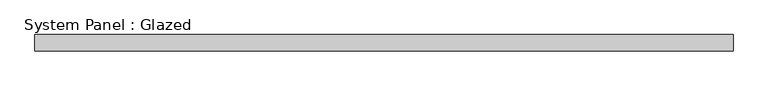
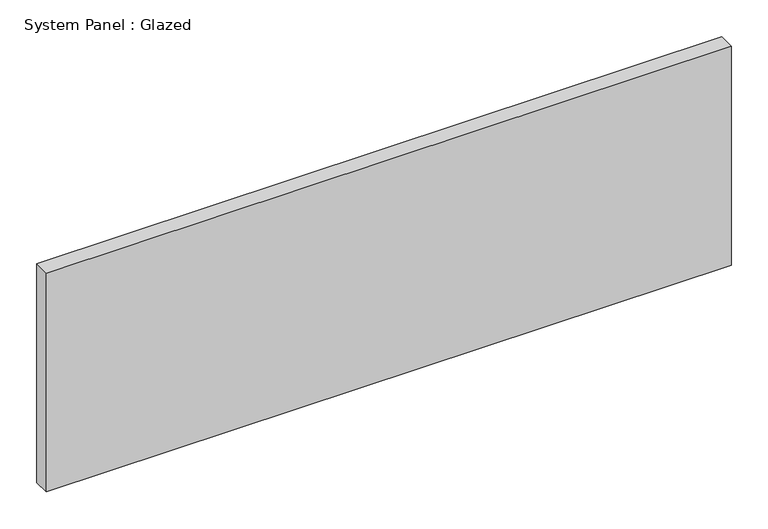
"""IFC4 building model written with IfcOpenShell, lengths in millimetres: plate geometry, System Panel : Glazed."""

import ifcopenshell
import ifcopenshell.guid

model = None  # the IFC model being written
_history = None  # IfcOwnerHistory: only IFC2X3 demands one
_inside = {}  # id of a spatial element -> (the spatial element, [elements in it])
_under = {}  # id of a project, library or spatial element -> (it, [spatial elements below it])
_declared = {}  # id of a project -> (the project, [libraries it declares])
_typed = {}  # id of a type object -> (the type object, [elements of that type])
_made_of = {}  # id of a material, layer set ... -> (it, [elements and type objects made of it])


def new_model(schema):
    """Start an empty IFC model of exactly this schema.

    Asked for "IFC4X3", IfcOpenShell would pick the latest addendum, in which some entities
    have other attributes; the version numbers below select the first issue.
    IFC2X3 requires an IfcOwnerHistory on every rooted entity: one is made here for all.
    """
    global model, _history
    if schema == "IFC4X3":
        model = ifcopenshell.file(schema_version=(4, 3, 0, 0))
    else:
        model = ifcopenshell.file(schema=schema)
    _inside.clear()
    _under.clear()
    _declared.clear()
    _typed.clear()
    _made_of.clear()
    _history = None
    if model.schema == "IFC2X3":
        org = make("IfcOrganization", Name="unknown")
        user = make(
            "IfcPersonAndOrganization",
            ThePerson=make("IfcPerson", FamilyName="unknown"),
            TheOrganization=org,
        )
        app = make(
            "IfcApplication",
            ApplicationDeveloper=org,
            Version="unknown",
            ApplicationFullName="unknown",
            ApplicationIdentifier="unknown",
        )
        _history = make(
            "IfcOwnerHistory",
            OwningUser=user,
            OwningApplication=app,
            ChangeAction="ADDED",
            CreationDate=0,
        )
    return model


def make(cls, **values):
    """One entity of the class cls with the attributes given. An attribute that is None is left unset."""
    return model.create_entity(
        cls, **{name: value for name, value in values.items() if value is not None}
    )


def rooted(cls, **values):
    """An entity with a GlobalId (a new one), such as an element, a storey or a relation."""
    return make(cls, GlobalId=ifcopenshell.guid.new(), OwnerHistory=_history, **values)


def si_unit(unit_type, name, prefix=None):
    """IfcSIUnit, for example si_unit("LENGTHUNIT", "METRE", prefix="MILLI")."""
    return make("IfcSIUnit", UnitType=unit_type, Prefix=prefix, Name=name)


def assignment(units):
    """IfcUnitAssignment: the units of a project."""
    return None if units is None else make("IfcUnitAssignment", Units=units)


def point(xyz):
    """IfcCartesianPoint."""
    return None if xyz is None else make("IfcCartesianPoint", Coordinates=xyz)


def direction(xyz):
    """IfcDirection."""
    return None if xyz is None else make("IfcDirection", DirectionRatios=xyz)


def frame(location, z_axis=None, x_axis=None):
    """IfcAxis2Placement3D, a coordinate frame: its origin and axes. An axis left out is left unset."""
    return make(
        "IfcAxis2Placement3D",
        Location=point(location),
        Axis=direction(z_axis),
        RefDirection=direction(x_axis),
    )


def origin():
    """The frame at (0, 0, 0) with its axes left unset."""
    return frame((0.0, 0.0, 0.0))


def origin_with_axes():
    """The frame at (0, 0, 0) with the z axis (0, 0, 1) and the x axis (1, 0, 0) written out."""
    return frame((0.0, 0.0, 0.0), z_axis=(0.0, 0.0, 1.0), x_axis=(1.0, 0.0, 0.0))


def place(relative_to, where):
    """IfcLocalPlacement: puts the frame where relative to a parent placement (None: the world)."""
    return make(
        "IfcLocalPlacement", PlacementRelTo=relative_to, RelativePlacement=where
    )


def context(
    kind, dimensions, precision=None, world=None, true_north=None, identifier=None
):
    """IfcGeometricRepresentationContext, for example the 3D "Model" context."""
    return make(
        "IfcGeometricRepresentationContext",
        ContextIdentifier=identifier,
        ContextType=kind,
        CoordinateSpaceDimension=dimensions,
        Precision=precision,
        WorldCoordinateSystem=world,
        TrueNorth=true_north,
    )


def project(units=None, contexts=None):
    """IfcProject with its units and contexts."""
    return rooted(
        "IfcProject",
        Name="project",
        RepresentationContexts=contexts,
        UnitsInContext=assignment(units),
    )


def spatial(cls, under=None, at=None, **own):
    """A site, building, storey or space (cls), placed at a placement, below another one or the project."""
    s = rooted(cls, ObjectPlacement=at, **own)
    if under is not None:
        _under.setdefault(under.id(), (under, []))[1].append(s)
    return s


def polyline(points):
    """IfcPolyline through the points."""
    return make("IfcPolyline", Points=[point(p) for p in points])


def outline(outer, holes=None, kind="AREA"):
    """IfcArbitraryClosedProfileDef: a profile drawn as a closed curve; with holes, ...WithVoids."""
    if holes is None:
        return make("IfcArbitraryClosedProfileDef", ProfileType=kind, OuterCurve=outer)
    return make(
        "IfcArbitraryProfileDefWithVoids",
        ProfileType=kind,
        OuterCurve=outer,
        InnerCurves=holes,
    )


def extrude(swept, where, along, depth):
    """IfcExtrudedAreaSolid: the profile swept, set in the frame where, extruded along a direction by depth."""
    return make(
        "IfcExtrudedAreaSolid",
        SweptArea=swept,
        Position=where,
        ExtrudedDirection=direction(along),
        Depth=depth,
    )


def shape(context_of_items, identifier, shape_type, items):
    """IfcShapeRepresentation: the items that make up one representation, for example the "Body"."""
    return make(
        "IfcShapeRepresentation",
        ContextOfItems=context_of_items,
        RepresentationIdentifier=identifier,
        RepresentationType=shape_type,
        Items=items,
    )


def source(mapping_origin, context_of_items, identifier, shape_type, items):
    """IfcRepresentationMap: a shape defined once, which mapped items show again and again."""
    return make(
        "IfcRepresentationMap",
        MappingOrigin=mapping_origin,
        MappedRepresentation=shape(context_of_items, identifier, shape_type, items),
    )


def transform(
    local_origin,
    x_axis=None,
    y_axis=None,
    z_axis=None,
    scale=None,
    scale2=None,
    scale3=None,
    uniform=True,
):
    """IfcCartesianTransformationOperator3D, or its non-uniform kind. x_axis, y_axis, z_axis: its Axis1, 2, 3."""
    if uniform:
        return make(
            "IfcCartesianTransformationOperator3D",
            Axis1=direction(x_axis),
            Axis2=direction(y_axis),
            LocalOrigin=point(local_origin),
            Scale=scale,
            Axis3=direction(z_axis),
        )
    return make(
        "IfcCartesianTransformationOperator3DnonUniform",
        Axis1=direction(x_axis),
        Axis2=direction(y_axis),
        LocalOrigin=point(local_origin),
        Scale=scale,
        Axis3=direction(z_axis),
        Scale2=scale2,
        Scale3=scale3,
    )


def mapped(mapping_source, mapping_target):
    """IfcMappedItem: shows the shape of a source again, moved by a transform."""
    return make(
        "IfcMappedItem", MappingSource=mapping_source, MappingTarget=mapping_target
    )


def made_of(thing, what):
    """Note that an element or type object is made of a material, layer set ...; save() writes the relation."""
    if what is not None:
        _made_of.setdefault(what.id(), (what, []))[1].append(thing)
    return thing


def element(
    cls,
    number,
    at=None,
    inside=None,
    cuts=None,
    type_object=None,
    material=None,
    context=None,
    identifier="Body",
    shape_type=None,
    held_by="IfcProductDefinitionShape",
    body=None,
    shapes=None,
    **own,
):
    """One element of the class cls, such as IfcWall. Its Tag is "e" and its number.

    at: its placement. inside: the storey or other place that contains it. cuts: it is an
    opening in that element (IfcRelVoidsElement). A single representation is given by context,
    identifier, shape_type and body (its items); several are given by shapes. held_by: the class
    of the entity that holds the representations. save() writes the other relations.
    """
    e = rooted(cls, Tag="e%d" % number, ObjectPlacement=at, **own)
    if body is not None:
        shapes = [shape(context, identifier, shape_type, body)]
    if shapes is not None:
        e.Representation = make(held_by, Representations=shapes)
    if inside is not None:
        _inside.setdefault(inside.id(), (inside, []))[1].append(e)
    if cuts is not None:
        rooted(
            "IfcRelVoidsElement", RelatingBuildingElement=cuts, RelatedOpeningElement=e
        )
    if type_object is not None:
        _typed.setdefault(type_object.id(), (type_object, []))[1].append(e)
    return made_of(e, material)


def aggregate(whole, parts):
    """IfcRelAggregates: a whole, such as a stair, and the parts it consists of."""
    return rooted("IfcRelAggregates", RelatingObject=whole, RelatedObjects=parts)


def save(model, path):
    """Write the relations noted so far, then the file.

    IfcRelAggregates (storeys below a building ...), IfcRelContainedInSpatialStructure (elements
    in a storey), IfcRelDefinesByType, IfcRelAssociatesMaterial and IfcRelDeclares: one each for
    every whole, place, type object, material and project.
    """
    for whole, parts in _under.values():
        aggregate(whole, parts)
    for where, things in _inside.values():
        rooted(
            "IfcRelContainedInSpatialStructure",
            RelatedElements=things,
            RelatingStructure=where,
        )
    for kind, things in _typed.values():
        rooted("IfcRelDefinesByType", RelatedObjects=things, RelatingType=kind)
    for what, things in _made_of.values():
        rooted("IfcRelAssociatesMaterial", RelatedObjects=things, RelatingMaterial=what)
    for by, libraries in _declared.values():
        rooted("IfcRelDeclares", RelatingContext=by, RelatedDefinitions=libraries)
    model.write(path)


def system_panel_glazed_575d64dd(model_context):
    return source(origin(), model_context, "Body", "SweptSolid", [
        extrude(outline(polyline([(535.0833332, 19.05), (-535.0833332, 19.05), (-535.0833332, 44.45), (535.0833332, 44.45), (535.0833332, 19.05)])), origin_with_axes(), (0.0, 0.0, 1.0), 361.6),
    ])


if __name__ == "__main__":
    model = new_model("IFC4")
    model_context = context("Model", 3, world=origin())
    ifc_project = project(units=[si_unit("LENGTHUNIT", "METRE", prefix="MILLI")], contexts=[model_context])
    site = spatial("IfcSite", under=ifc_project)
    building = spatial("IfcBuilding", under=site)
    placement = place(None, origin())
    system_panel_glazed_shape = system_panel_glazed_575d64dd(model_context)
    element("IfcPlate", 1, ObjectType="System Panel : Glazed", at=placement, inside=building, context=model_context, shape_type="MappedRepresentation", body=[
        mapped(system_panel_glazed_shape, transform((0.0, 0.0, 0.0), x_axis=(1.0, 0.0, 0.0), y_axis=(0.0, 1.0, 0.0), z_axis=(0.0, 0.0, 1.0))),
    ])
    save(model, "model.ifc")
